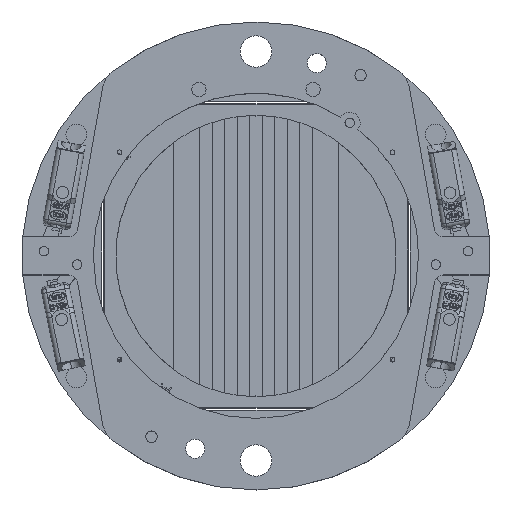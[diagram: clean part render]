
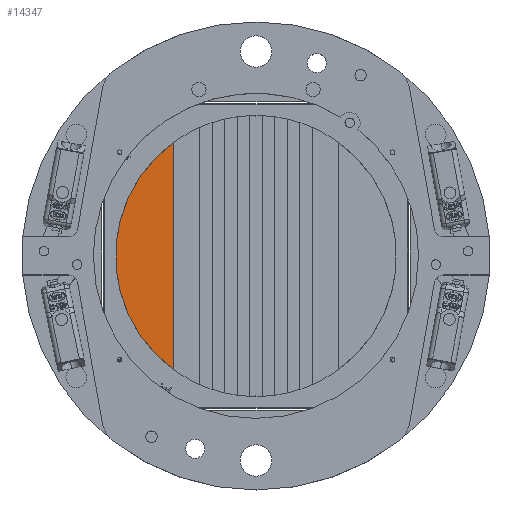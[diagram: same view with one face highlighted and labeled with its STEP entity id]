
A CAD part, top view. The second image highlights one B-rep face of the part: STEP entity #14347.
In plain terms, the highlighted planar face has unit normal (0, 0, 1).
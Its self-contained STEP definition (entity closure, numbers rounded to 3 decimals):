
#5068 = PLANE ( 'NONE',  #74423 ) ;
#11165 = CARTESIAN_POINT ( 'NONE',  ( -8.68, 11.945, 0.614 ) ) ;
#12894 = VERTEX_POINT ( 'NONE', #23890 ) ;
#14347 = ADVANCED_FACE ( 'NONE', ( #40893 ), #5068, .F. ) ;
#14454 = LINE ( 'NONE', #32923, #65030 ) ;
#14806 = ORIENTED_EDGE ( 'NONE', *, *, #72771, .F. ) ;
#23812 = DIRECTION ( 'NONE',  ( 0., 1., 0. ) ) ;
#23890 = CARTESIAN_POINT ( 'NONE',  ( -8.68, -11.944, 0.614 ) ) ;
#25413 = VERTEX_POINT ( 'NONE', #11165 ) ;
#30203 = DIRECTION ( 'NONE',  ( 0., 1., 0. ) ) ;
#30507 = CARTESIAN_POINT ( 'NONE',  ( 0., 0., 0.614 ) ) ;
#32923 = CARTESIAN_POINT ( 'NONE',  ( -8.68, 17.547, 0.614 ) ) ;
#38672 = ORIENTED_EDGE ( 'NONE', *, *, #70842, .F. ) ;
#40893 = FACE_OUTER_BOUND ( 'NONE', #69770, .T. ) ;
#48719 = DIRECTION ( 'NONE',  ( 0., 0., -1. ) ) ;
#48992 = CIRCLE ( 'NONE', #51558, 14.765 ) ;
#51558 = AXIS2_PLACEMENT_3D ( 'NONE', #30507, #54535, #23812 ) ;
#54535 = DIRECTION ( 'NONE',  ( 0., 0., -1. ) ) ;
#54626 = CARTESIAN_POINT ( 'NONE',  ( -14.765, 0., 0.614 ) ) ;
#63245 = DIRECTION ( 'NONE',  ( 0., -1., 0. ) ) ;
#65030 = VECTOR ( 'NONE', #63245, 1000. ) ;
#69770 = EDGE_LOOP ( 'NONE', ( #14806, #38672 ) ) ;
#70842 = EDGE_CURVE ( 'NONE', #25413, #12894, #14454, .T. ) ;
#72771 = EDGE_CURVE ( 'NONE', #12894, #25413, #48992, .T. ) ;
#74423 = AXIS2_PLACEMENT_3D ( 'NONE', #54626, #48719, #30203 ) ;
